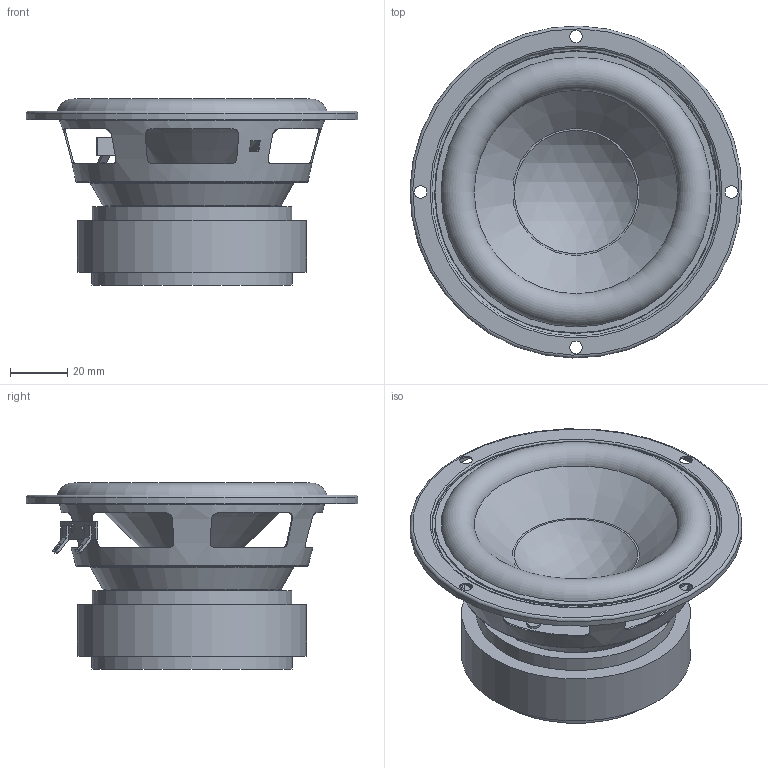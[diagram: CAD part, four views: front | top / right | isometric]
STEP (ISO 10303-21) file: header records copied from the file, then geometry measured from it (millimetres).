
FILE_DESCRIPTION(/* description */ ('STEP AP203'),/* implementation_level */ '2;1');
FILE_NAME(/* name */ 'TCP115-4 and -8.step',/* time_stamp */ '2026-08-25T12:49:12-04:00',/* author */ (''),/* organization */ (''),/* preprocessor_version */ 'ST-DEVELOPER v20.1',/* originating_system */ 'Autodesk Translation Framework v15.8.0.0',/* authorisation */ '');
FILE_SCHEMA (('AUTOMOTIVE_DESIGN { 1 0 10303 214 3 1 1 }'));
Length unit declared in the file: millimetre
Products named in the file (4): À®°È-116; JLT-ZJ-S046-191009.stp; ¹ÄÖ½; Ã±×Ó
Assembly tree (3 placements, depth 2):
  À®°È-116
    JLT-ZJ-S046-191009.stp
    ¹ÄÖ½
    Ã±×Ó
Bounding box: 115.97 x 115.97 x 64.99 mm (x, y, z)
Volume: 138680 mm3; surface area: 69064.2 mm2
Topology: 5 solids, 5 shells, 174 faces, 441 edges, 292 vertices
Faces by surface type: plane 95, cylinder 54, torus 16, cone 7, sphere 2
Full cylindrical faces by diameter (mm): 4.4 x4, 4.8 x8, 28.6 x2, 69.72 x1, 70 x1, 80 x1, 98.454 x1, 100.8 x1, 102 x1, 114.8 x1, 116 x1
Entity records: 6972 total; most frequent: CARTESIAN_POINT 2604, ORIENTED_EDGE 882, DIRECTION 867, EDGE_CURVE 441, AXIS2_PLACEMENT_3D 331, VERTEX_POINT 292, EDGE_LOOP 229, LINE 205
